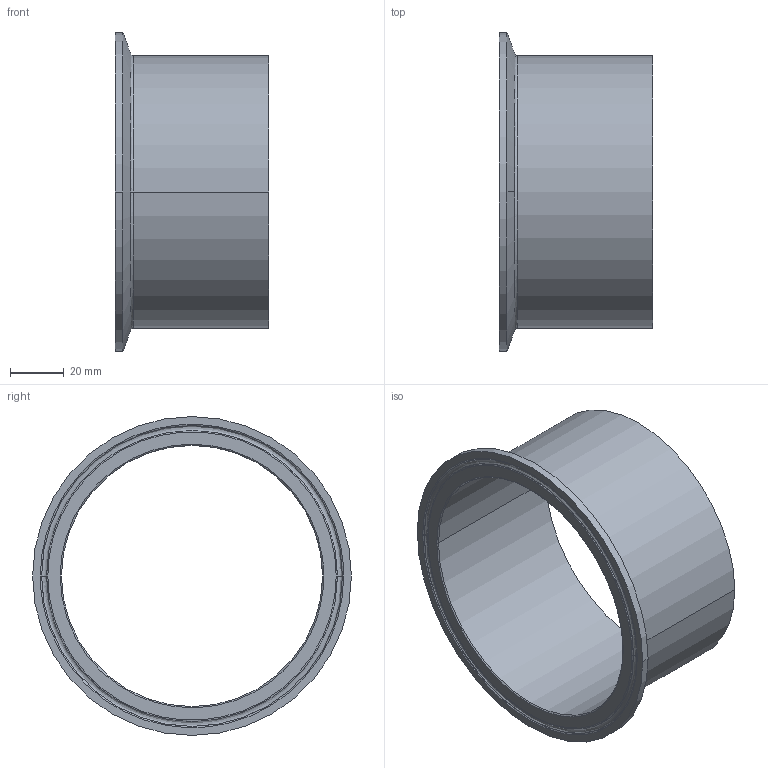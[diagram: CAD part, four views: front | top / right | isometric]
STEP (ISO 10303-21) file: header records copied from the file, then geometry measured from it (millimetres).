
FILE_DESCRIPTION (( 'STEP AP214' ), '1' );
FILE_NAME ('TEG14AM76L4.0.STEP', '2016-05-23T03:56:14', ( 'eran' ), ( '' ), 'SwSTEP 2.0', 'SolidWorks 2016', '' );
FILE_SCHEMA (( 'AUTOMOTIVE_DESIGN' ));
Length unit declared in the file: millimetre
Products named in the file (1): TEG14AM76L4.0
Bounding box: 57.2 x 118.92 x 118.92 mm (x, y, z)
Volume: 50398.9 mm3; surface area: 42506.8 mm2
Topology: 1 solids, 1 shells, 25 faces, 62 edges, 40 vertices
Faces by surface type: bspline 10, cylinder 6, cone 6, plane 3
Entity records: 1559 total; most frequent: CARTESIAN_POINT 934, DIRECTION 132, ORIENTED_EDGE 124, EDGE_CURVE 62, AXIS2_PLACEMENT_3D 60, CIRCLE 44, VERTEX_POINT 40, EDGE_LOOP 28
